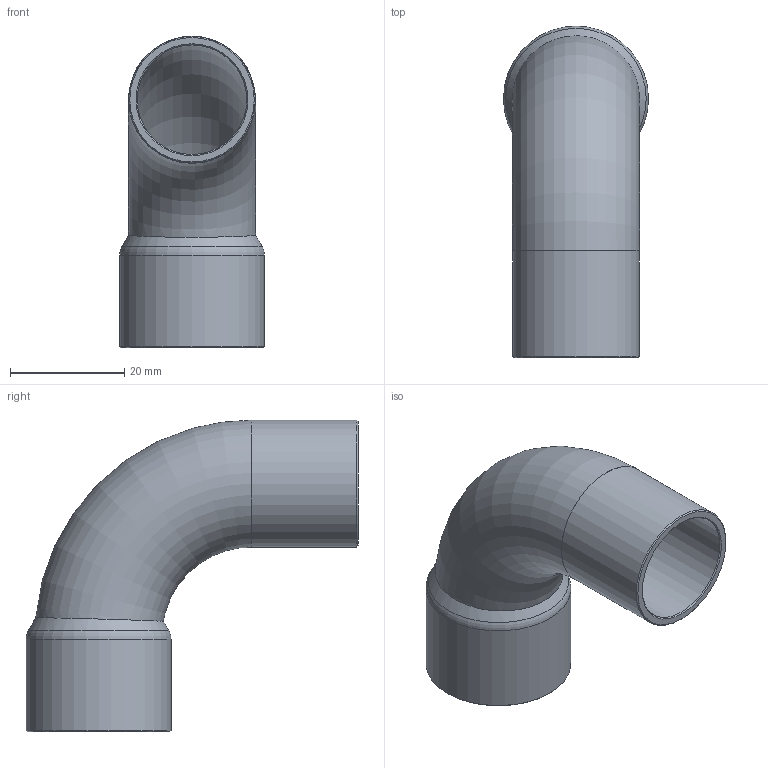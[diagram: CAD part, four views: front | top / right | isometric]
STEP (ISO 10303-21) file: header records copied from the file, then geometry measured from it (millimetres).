
FILE_DESCRIPTION((''),'2;1');
FILE_NAME('G:\SANHA-Ternat\Technik\Management\Bouwmaten + markeringen\z-maattekeningen 3D\29000s\29001A78_3d.stp','2017-07-26T10:05:48',('vdvijverd'),(''),'Autodesk Inventor 2009','Autodesk Inventor 2009','');
FILE_SCHEMA(('AUTOMOTIVE_DESIGN { 1 0 10303 214 1 1 1 1 }'));
Length unit declared in the file: millimetre
Products named in the file (1): 29001A78_3d
Bounding box: 25.38 x 58.09 x 54.52 mm (x, y, z)
Volume: 7853.9 mm3; surface area: 10659.9 mm2
Topology: 1 solids, 1 shells, 18 faces, 34 edges, 20 vertices
Faces by surface type: cone 6, plane 4, cylinder 4, torus 3, bspline 1
Full cylindrical faces by diameter (mm): 19.175 x1, 22.175 x1, 22.375 x1, 25.375 x1
Entity records: 500 total; most frequent: CARTESIAN_POINT 171, DIRECTION 68, ORIENTED_EDGE 36, EDGE_LOOP 36, AXIS2_PLACEMENT_3D 34, VERTEX_POINT 18, EDGE_CURVE 18, FACE_OUTER_BOUND 18
